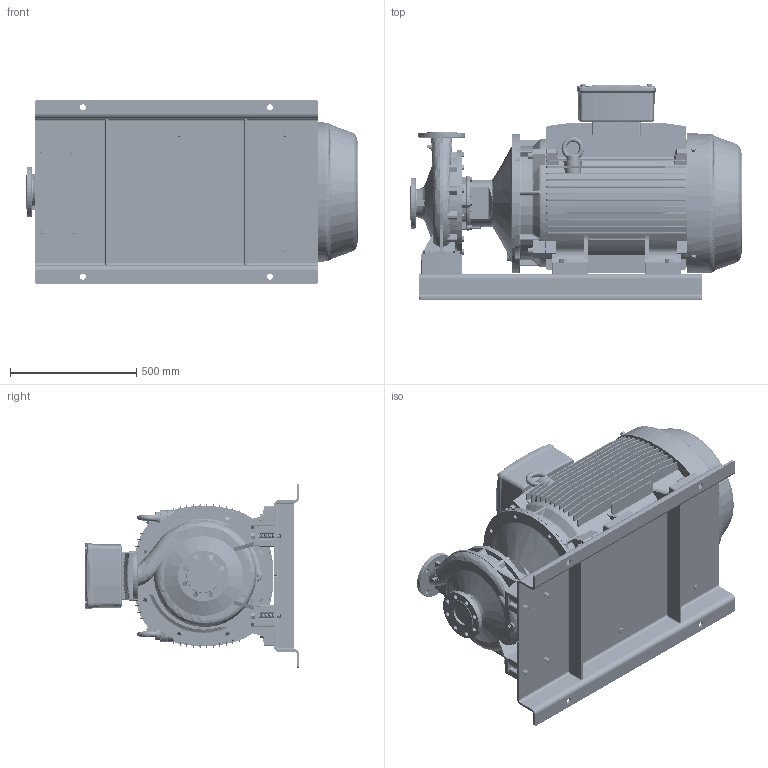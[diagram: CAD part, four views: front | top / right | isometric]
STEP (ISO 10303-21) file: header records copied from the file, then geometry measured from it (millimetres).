
FILE_DESCRIPTION (( 'STEP AP214' ), '1' );
FILE_NAME ('GSD2 65-315_90 & 110_(280SM)_W21_BP.STEP', '2024-05-17T04:07:34', ( '' ), ( '' ), 'SwSTEP 2.0', 'SolidWorks 2019', '' );
FILE_SCHEMA (( 'AUTOMOTIVE_DESIGN' ));
Length unit declared in the file: millimetre
Products named in the file (15): CGS11-5321_2_3_4_5_CGS11-5324; Parametric Stud Bolt_SFSK-AB377; Parametric Nut_M16; Parametric bolt and washer_SFT-A411B; 280S_M2P IE3_W21T_B35; Parametric Flat Washer_M16; Parametric bolt_SFT-A411B; CGS11-5321_2_3_4_5_CGS11-5322; N9S4 GSDA-947 F1-1832979-00; Parametric Flat Washer_M20; 65-315-280S_M_______; GSD2  65-315_90 & 110_(280SM)_W21_BP
Assembly tree (31 placements, depth 3):
  GSD2  65-315_90 & 110_(280SM)_W21_BP
    65-315-280S_M_______
    280S_M2P IE3_W21T_B35
    CGS11-5321_2_3_4_5_CGS11-5322  x2
    CGS11-5321_2_3_4_5_CGS11-5324  x2
    N9S4 GSDA-947 F1-1832979-00
    Parametric bolt and washer_SFT-A411B
      Parametric bolt_SFT-A411B
      Parametric Flat Washer_M20
    Parametric bolt and washer_SFT-A411B
      Parametric bolt_SFT-A411B
      Parametric Flat Washer_M20
    Parametric bolt and washer_SFT-A411B
      Parametric bolt_SFT-A411B
      Parametric Flat Washer_M20
    Parametric bolt and washer_SFT-A411B
      Parametric bolt_SFT-A411B
      Parametric Flat Washer_M20
    Parametric Stud Bolt_SFSK-AB377  x4
    Parametric Flat Washer_M16  x4
    Parametric Nut_M16  x4
Bounding box: 1313 x 849.6 x 730 mm (x, y, z)
Volume: 239407380.7 mm3; surface area: 8542701.5 mm2
Topology: 28 solids, 35 shells, 4680 faces, 12431 edges, 7947 vertices
Faces by surface type: cylinder 1789, plane 1756, cone 578, torus 283, bspline 244, sphere 30
Entity records: 169517 total; most frequent: CARTESIAN_POINT 76079, ORIENTED_EDGE 20330, DIRECTION 18747, EDGE_CURVE 10165, AXIS2_PLACEMENT_3D 6954, VERTEX_POINT 6483, VECTOR 4839, LINE 4839
